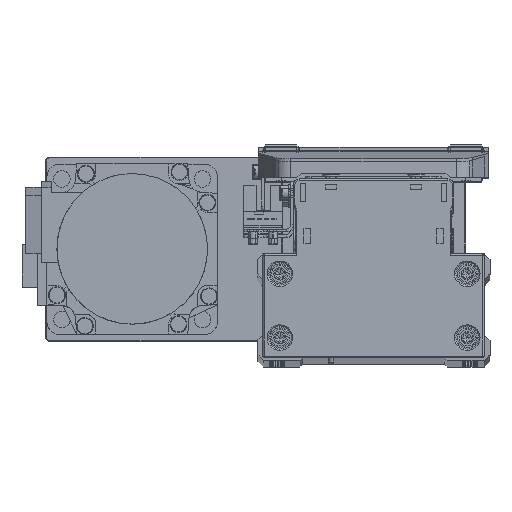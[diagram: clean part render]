
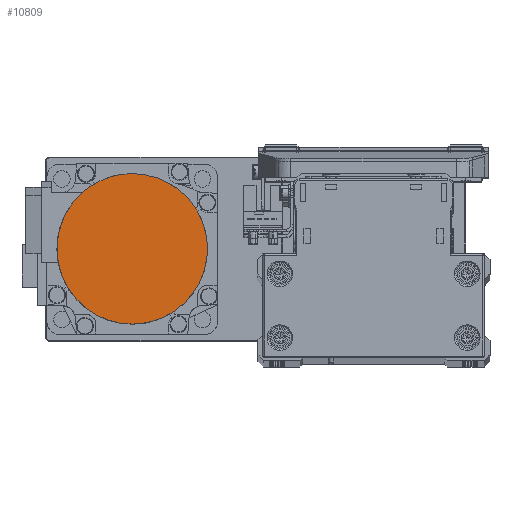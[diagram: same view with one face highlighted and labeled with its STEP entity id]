
A CAD part, top view. The second image highlights one B-rep face of the part: STEP entity #10809.
In plain terms, the highlighted planar face has unit normal (0, 0, 1) as drawn and (0, 0, -1) by its records, which use the part's own axes.
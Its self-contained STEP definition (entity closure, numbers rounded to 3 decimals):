
#338 = CARTESIAN_POINT ( 'NONE',  ( -13.28, -22.998, -88. ) ) ;
#382 = CARTESIAN_POINT ( 'NONE',  ( 13.28, 22.998, -88. ) ) ;
#541 = CARTESIAN_POINT ( 'NONE',  ( 17.512, -19.965, -88. ) ) ;
#585 = CARTESIAN_POINT ( 'NONE',  ( -17.512, 19.965, -88. ) ) ;
#1204 = VERTEX_POINT ( 'NONE', #2990 ) ;
#2990 = CARTESIAN_POINT ( 'NONE',  ( -26.5, 0., -88. ) ) ;
#3568 = CARTESIAN_POINT ( 'NONE',  ( -19.965, -17.512, -88. ) ) ;
#3577 = ORIENTED_EDGE ( 'NONE', *, *, #3908, .F. ) ;
#3615 = CARTESIAN_POINT ( 'NONE',  ( 19.965, 17.512, -88. ) ) ;
#3767 = CARTESIAN_POINT ( 'NONE',  ( 11.744, -23.819, -88. ) ) ;
#3810 = CARTESIAN_POINT ( 'NONE',  ( -11.744, 23.819, -88. ) ) ;
#3908 = EDGE_CURVE ( 'NONE', #1204, #32561, #38235, .T. ) ;
#6757 = CARTESIAN_POINT ( 'NONE',  ( -23.819, -11.744, -88. ) ) ;
#6808 = CARTESIAN_POINT ( 'NONE',  ( 23.819, 11.744, -88. ) ) ;
#6984 = CARTESIAN_POINT ( 'NONE',  ( 3.469, -26.329, -88. ) ) ;
#7030 = CARTESIAN_POINT ( 'NONE',  ( -3.469, 26.329, -88. ) ) ;
#7193 = CARTESIAN_POINT ( 'NONE',  ( 26.329, -3.469, -88. ) ) ;
#7236 = CARTESIAN_POINT ( 'NONE',  ( -26.329, 3.469, -88. ) ) ;
#8533 = AXIS2_PLACEMENT_3D ( 'NONE', #39676, #10279, #23396 ) ;
#9993 = CARTESIAN_POINT ( 'NONE',  ( -26.329, -3.469, -88. ) ) ;
#10034 = CARTESIAN_POINT ( 'NONE',  ( 26.329, 3.469, -88. ) ) ;
#10193 = CARTESIAN_POINT ( 'NONE',  ( -3.469, -26.329, -88. ) ) ;
#10245 = CARTESIAN_POINT ( 'NONE',  ( 3.469, 26.329, -88. ) ) ;
#10279 = DIRECTION ( 'NONE',  ( 0., 0., 1. ) ) ;
#10414 = CARTESIAN_POINT ( 'NONE',  ( 23.819, -11.744, -88. ) ) ;
#10459 = CARTESIAN_POINT ( 'NONE',  ( -23.819, 11.744, -88. ) ) ;
#10809 = ADVANCED_FACE ( 'NONE', ( #13505 ), #26602, .F. ) ;
#12721 = B_SPLINE_CURVE_WITH_KNOTS ( 'NONE', 3,
 ( #26367, #39445, #10034, #23141, #36232, #6808, #19924, #33031, #3615, #16718, #29808, #382, #13472, #26569, #39644, #10245, #23359, #36457, #7030, #20148, #33244, #3810, #16914, #30008, #585, #13685, #26783, #39862, #10459, #23575, #36665, #7236, #20341, #33438 ),
 .UNSPECIFIED., .F., .F.,
 ( 4, 2, 2, 2, 2, 2, 2, 2, 2, 2, 2, 2, 2, 2, 2, 2, 4 ),
 ( 0., 0.063, 0.125, 0.188, 0.25, 0.313, 0.375, 0.438, 0.5, 0.563, 0.625, 0.688, 0.75, 0.813, 0.875, 0.938, 1. ),
 .UNSPECIFIED. ) ;
#13426 = CARTESIAN_POINT ( 'NONE',  ( -11.744, -23.819, -88. ) ) ;
#13472 = CARTESIAN_POINT ( 'NONE',  ( 11.744, 23.819, -88. ) ) ;
#13505 = FACE_OUTER_BOUND ( 'NONE', #20452, .T. ) ;
#13631 = CARTESIAN_POINT ( 'NONE',  ( 19.965, -17.512, -88. ) ) ;
#13685 = CARTESIAN_POINT ( 'NONE',  ( -19.965, 17.512, -88. ) ) ;
#16670 = CARTESIAN_POINT ( 'NONE',  ( -17.512, -19.965, -88. ) ) ;
#16718 = CARTESIAN_POINT ( 'NONE',  ( 17.512, 19.965, -88. ) ) ;
#16867 = CARTESIAN_POINT ( 'NONE',  ( 13.28, -22.998, -88. ) ) ;
#16914 = CARTESIAN_POINT ( 'NONE',  ( -13.28, 22.998, -88. ) ) ;
#18612 = CARTESIAN_POINT ( 'NONE',  ( 26.5, 0., -88. ) ) ;
#19873 = CARTESIAN_POINT ( 'NONE',  ( -22.998, -13.28, -88. ) ) ;
#19924 = CARTESIAN_POINT ( 'NONE',  ( 22.998, 13.28, -88. ) ) ;
#20100 = CARTESIAN_POINT ( 'NONE',  ( 6.871, -25.652, -88. ) ) ;
#20148 = CARTESIAN_POINT ( 'NONE',  ( -6.871, 25.652, -88. ) ) ;
#20296 = CARTESIAN_POINT ( 'NONE',  ( 26.5, -1.734, -88. ) ) ;
#20341 = CARTESIAN_POINT ( 'NONE',  ( -26.5, 1.734, -88. ) ) ;
#20452 = EDGE_LOOP ( 'NONE', ( #27101, #3577 ) ) ;
#23098 = CARTESIAN_POINT ( 'NONE',  ( -25.652, -6.871, -88. ) ) ;
#23141 = CARTESIAN_POINT ( 'NONE',  ( 25.652, 6.871, -88. ) ) ;
#23308 = CARTESIAN_POINT ( 'NONE',  ( -1.734, -26.5, -88. ) ) ;
#23359 = CARTESIAN_POINT ( 'NONE',  ( 1.734, 26.5, -88. ) ) ;
#23396 = DIRECTION ( 'NONE',  ( 1., 0., 0. ) ) ;
#23530 = CARTESIAN_POINT ( 'NONE',  ( 25.147, -8.539, -88. ) ) ;
#23575 = CARTESIAN_POINT ( 'NONE',  ( -25.147, 8.539, -88. ) ) ;
#26322 = CARTESIAN_POINT ( 'NONE',  ( -26.5, 0., -88. ) ) ;
#26367 = CARTESIAN_POINT ( 'NONE',  ( 26.5, 0., -88. ) ) ;
#26525 = CARTESIAN_POINT ( 'NONE',  ( -8.539, -25.147, -88. ) ) ;
#26569 = CARTESIAN_POINT ( 'NONE',  ( 8.539, 25.147, -88. ) ) ;
#26602 = PLANE ( 'NONE',  #8533 ) ;
#26731 = CARTESIAN_POINT ( 'NONE',  ( 21.07, -16.165, -88. ) ) ;
#26783 = CARTESIAN_POINT ( 'NONE',  ( -21.07, 16.165, -88. ) ) ;
#27101 = ORIENTED_EDGE ( 'NONE', *, *, #31040, .F. ) ;
#29763 = CARTESIAN_POINT ( 'NONE',  ( -16.165, -21.07, -88. ) ) ;
#29808 = CARTESIAN_POINT ( 'NONE',  ( 16.165, 21.07, -88. ) ) ;
#29963 = CARTESIAN_POINT ( 'NONE',  ( 16.165, -21.07, -88. ) ) ;
#30008 = CARTESIAN_POINT ( 'NONE',  ( -16.165, 21.07, -88. ) ) ;
#31040 = EDGE_CURVE ( 'NONE', #32561, #1204, #12721, .T. ) ;
#32561 = VERTEX_POINT ( 'NONE', #18612 ) ;
#32982 = CARTESIAN_POINT ( 'NONE',  ( -21.07, -16.165, -88. ) ) ;
#33031 = CARTESIAN_POINT ( 'NONE',  ( 21.07, 16.165, -88. ) ) ;
#33201 = CARTESIAN_POINT ( 'NONE',  ( 8.539, -25.147, -88. ) ) ;
#33244 = CARTESIAN_POINT ( 'NONE',  ( -8.539, 25.147, -88. ) ) ;
#33393 = CARTESIAN_POINT ( 'NONE',  ( 26.5, 0., -88. ) ) ;
#33438 = CARTESIAN_POINT ( 'NONE',  ( -26.5, 0., -88. ) ) ;
#36184 = CARTESIAN_POINT ( 'NONE',  ( -25.147, -8.539, -88. ) ) ;
#36232 = CARTESIAN_POINT ( 'NONE',  ( 25.147, 8.539, -88. ) ) ;
#36409 = CARTESIAN_POINT ( 'NONE',  ( 1.734, -26.5, -88. ) ) ;
#36457 = CARTESIAN_POINT ( 'NONE',  ( -1.734, 26.5, -88. ) ) ;
#36620 = CARTESIAN_POINT ( 'NONE',  ( 25.652, -6.871, -88. ) ) ;
#36665 = CARTESIAN_POINT ( 'NONE',  ( -25.652, 6.871, -88. ) ) ;
#38235 = B_SPLINE_CURVE_WITH_KNOTS ( 'NONE', 3,
 ( #26322, #39402, #9993, #23098, #36184, #6757, #19873, #32982, #3568, #16670, #29763, #338, #13426, #26525, #39597, #10193, #23308, #36409, #6984, #20100, #33201, #3767, #16867, #29963, #541, #13631, #26731, #39811, #10414, #23530, #36620, #7193, #20296, #33393 ),
 .UNSPECIFIED., .F., .F.,
 ( 4, 2, 2, 2, 2, 2, 2, 2, 2, 2, 2, 2, 2, 2, 2, 2, 4 ),
 ( 0., 0.063, 0.125, 0.188, 0.25, 0.313, 0.375, 0.438, 0.5, 0.563, 0.625, 0.688, 0.75, 0.813, 0.875, 0.938, 1. ),
 .UNSPECIFIED. ) ;
#39402 = CARTESIAN_POINT ( 'NONE',  ( -26.5, -1.734, -88. ) ) ;
#39445 = CARTESIAN_POINT ( 'NONE',  ( 26.5, 1.734, -88. ) ) ;
#39597 = CARTESIAN_POINT ( 'NONE',  ( -6.871, -25.652, -88. ) ) ;
#39644 = CARTESIAN_POINT ( 'NONE',  ( 6.871, 25.652, -88. ) ) ;
#39676 = CARTESIAN_POINT ( 'NONE',  ( 0., 0., -88. ) ) ;
#39811 = CARTESIAN_POINT ( 'NONE',  ( 22.998, -13.28, -88. ) ) ;
#39862 = CARTESIAN_POINT ( 'NONE',  ( -22.998, 13.28, -88. ) ) ;
